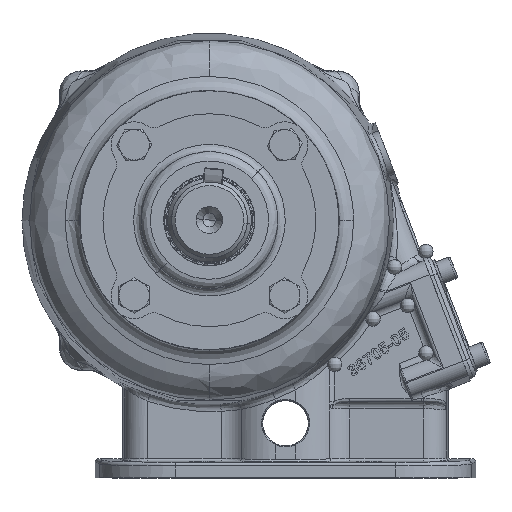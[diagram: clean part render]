
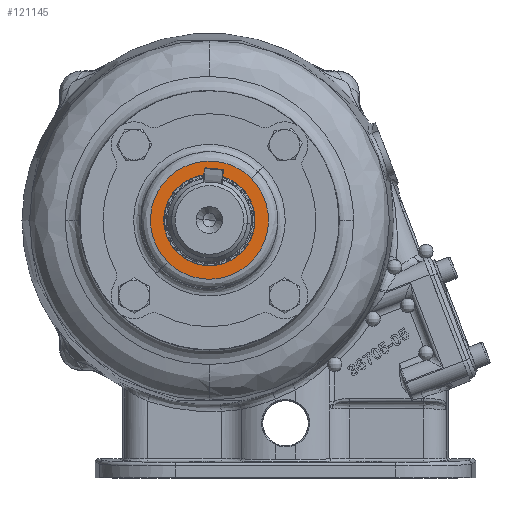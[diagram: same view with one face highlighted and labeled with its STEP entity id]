
A CAD part, top view. The second image highlights one B-rep face of the part: STEP entity #121145.
In plain terms, the highlighted planar face has unit normal (0, 0, 1) as drawn and (1, 0, 0) by its records, which use the part's own axes.
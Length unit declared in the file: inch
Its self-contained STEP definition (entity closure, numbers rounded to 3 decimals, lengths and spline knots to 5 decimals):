
#7863 = CARTESIAN_POINT ( 'NONE',  ( 0.505, 0., 0.75 ) ) ;
#8940 = CARTESIAN_POINT ( 'NONE',  ( 0.505, 0.97, -1.94 ) ) ;
#20155 = VERTEX_POINT ( 'NONE', #164327 ) ;
#29868 = EDGE_LOOP ( 'NONE', ( #79508, #94996 ) ) ;
#31272 = DIRECTION ( 'NONE',  ( 0., 0., -1. ) ) ;
#34213 = CARTESIAN_POINT ( 'NONE',  ( 0.505, -0.97, -1.94 ) ) ;
#35943 = EDGE_CURVE ( 'NONE', #133955, #99268, #57973, .T. ) ;
#37592 = PLANE ( 'NONE',  #146926 ) ;
#42369 = CIRCLE ( 'NONE', #82748, 0.75 ) ;
#54137 = EDGE_CURVE ( 'NONE', #99268, #133955, #42369, .T. ) ;
#55455 = CARTESIAN_POINT ( 'NONE',  ( 0.505, -0.97, 0. ) ) ;
#57973 = CIRCLE ( 'NONE', #66594, 0.75 ) ;
#66594 = AXIS2_PLACEMENT_3D ( 'NONE', #99708, #141206, #31272 ) ;
#70033 = CARTESIAN_POINT ( 'NONE',  ( 0.505, 0.97, 1.94 ) ) ;
#71059 =( BOUNDED_CURVE ( )  B_SPLINE_CURVE ( 3, ( #136124, #125000, #70033, #71801 ),
 .UNSPECIFIED., .F., .F. ) 
 B_SPLINE_CURVE_WITH_KNOTS ( ( 4, 4 ),
 ( 0.5, 1. ),
 .UNSPECIFIED. ) 
 CURVE ( )  GEOMETRIC_REPRESENTATION_ITEM ( )  RATIONAL_B_SPLINE_CURVE ( ( 1., 0.333, 0.333, 1. ) ) 
 REPRESENTATION_ITEM ( '' )  );
#71801 = CARTESIAN_POINT ( 'NONE',  ( 0.505, 0.97, 0. ) ) ;
#79006 = DIRECTION ( 'NONE',  ( 1., 0., 0. ) ) ;
#79508 = ORIENTED_EDGE ( 'NONE', *, *, #54137, .F. ) ;
#82748 = AXIS2_PLACEMENT_3D ( 'NONE', #168067, #127472, #142780 ) ;
#91630 = FACE_BOUND ( 'NONE', #29868, .T. ) ;
#94996 = ORIENTED_EDGE ( 'NONE', *, *, #35943, .F. ) ;
#99268 = VERTEX_POINT ( 'NONE', #105577 ) ;
#99708 = CARTESIAN_POINT ( 'NONE',  ( 0.505, 0., 0. ) ) ;
#102207 = EDGE_CURVE ( 'NONE', #153915, #20155, #71059, .T. ) ;
#105577 = CARTESIAN_POINT ( 'NONE',  ( 0.505, 0., -0.75 ) ) ;
#106050 = FACE_OUTER_BOUND ( 'NONE', #173676, .T. ) ;
#108372 = ORIENTED_EDGE ( 'NONE', *, *, #102207, .F. ) ;
#116150 = CARTESIAN_POINT ( 'NONE',  ( 0.505, 0.97, 0. ) ) ;
#116262 = ORIENTED_EDGE ( 'NONE', *, *, #177560, .F. ) ;
#118678 = DIRECTION ( 'NONE',  ( 0., 0., -1. ) ) ;
#121145 = ADVANCED_FACE ( 'NONE', ( #106050, #91630 ), #37592, .T. ) ;
#125000 = CARTESIAN_POINT ( 'NONE',  ( 0.505, -0.97, 1.94 ) ) ;
#127472 = DIRECTION ( 'NONE',  ( 1., 0., 0. ) ) ;
#133955 = VERTEX_POINT ( 'NONE', #7863 ) ;
#136124 = CARTESIAN_POINT ( 'NONE',  ( 0.505, -0.97, 0. ) ) ;
#141206 = DIRECTION ( 'NONE',  ( 1., 0., 0. ) ) ;
#142780 = DIRECTION ( 'NONE',  ( 0., 0., -1. ) ) ;
#144134 = CARTESIAN_POINT ( 'NONE',  ( 0.505, -0.97, 0. ) ) ;
#146926 = AXIS2_PLACEMENT_3D ( 'NONE', #148416, #79006, #118678 ) ;
#148416 = CARTESIAN_POINT ( 'NONE',  ( 0.505, 0.9375, 0. ) ) ;
#153915 = VERTEX_POINT ( 'NONE', #55455 ) ;
#154237 =( BOUNDED_CURVE ( )  B_SPLINE_CURVE ( 3, ( #116150, #8940, #34213, #144134 ),
 .UNSPECIFIED., .F., .T. ) 
 B_SPLINE_CURVE_WITH_KNOTS ( ( 4, 4 ),
 ( 0., 0.5 ),
 .UNSPECIFIED. ) 
 CURVE ( )  GEOMETRIC_REPRESENTATION_ITEM ( )  RATIONAL_B_SPLINE_CURVE ( ( 1., 0.333, 0.333, 1. ) ) 
 REPRESENTATION_ITEM ( '' )  );
#164327 = CARTESIAN_POINT ( 'NONE',  ( 0.505, 0.97, 0. ) ) ;
#168067 = CARTESIAN_POINT ( 'NONE',  ( 0.505, 0., 0. ) ) ;
#173676 = EDGE_LOOP ( 'NONE', ( #116262, #108372 ) ) ;
#177560 = EDGE_CURVE ( 'NONE', #20155, #153915, #154237, .T. ) ;
